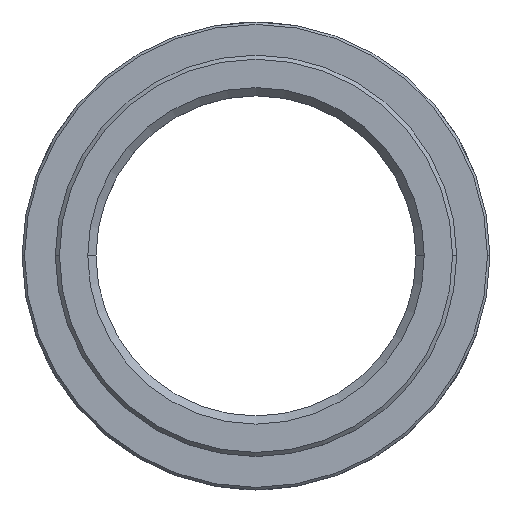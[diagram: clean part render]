
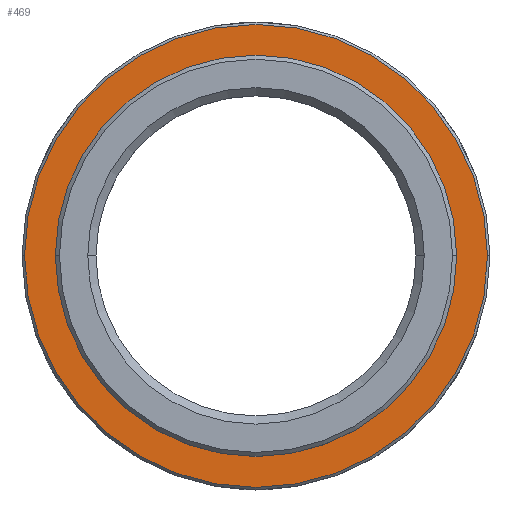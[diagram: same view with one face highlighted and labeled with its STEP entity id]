
A CAD part, top view. The second image highlights one B-rep face of the part: STEP entity #469.
In plain terms, the highlighted planar face has unit normal (0, 0, 1).
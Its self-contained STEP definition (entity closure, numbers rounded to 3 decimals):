
#123 = FACE_BOUND ( 'NONE', #924, .T. ) ;
#236 = DIRECTION ( 'NONE',  ( 0., 0., 1. ) ) ;
#262 = EDGE_CURVE ( 'NONE', #917, #1239, #571, .T. ) ;
#270 = CARTESIAN_POINT ( 'NONE',  ( 24.45, 0., -3.6 ) ) ;
#301 = CIRCLE ( 'NONE', #1146, 24.45 ) ;
#404 = VERTEX_POINT ( 'NONE', #1028 ) ;
#440 = CARTESIAN_POINT ( 'NONE',  ( 0., 0., -3.6 ) ) ;
#451 = EDGE_CURVE ( 'NONE', #666, #404, #777, .T. ) ;
#469 = ADVANCED_FACE ( 'NONE', ( #1149, #123 ), #694, .F. ) ;
#493 = CARTESIAN_POINT ( 'NONE',  ( 0., 24.45, -3.6 ) ) ;
#529 = AXIS2_PLACEMENT_3D ( 'NONE', #1093, #1109, #884 ) ;
#571 = CIRCLE ( 'NONE', #765, 28.2 ) ;
#666 = VERTEX_POINT ( 'NONE', #270 ) ;
#688 = CARTESIAN_POINT ( 'NONE',  ( 0., 0., -3.6 ) ) ;
#694 = PLANE ( 'NONE',  #1405 ) ;
#765 = AXIS2_PLACEMENT_3D ( 'NONE', #440, #1037, #1237 ) ;
#774 = DIRECTION ( 'NONE',  ( 1., 0., 0. ) ) ;
#777 = CIRCLE ( 'NONE', #827, 24.45 ) ;
#817 = ORIENTED_EDGE ( 'NONE', *, *, #262, .T. ) ;
#827 = AXIS2_PLACEMENT_3D ( 'NONE', #688, #236, #1285 ) ;
#836 = DIRECTION ( 'NONE',  ( 0., 0., -1. ) ) ;
#840 = CIRCLE ( 'NONE', #529, 28.2 ) ;
#884 = DIRECTION ( 'NONE',  ( -1., 0., 0. ) ) ;
#917 = VERTEX_POINT ( 'NONE', #1419 ) ;
#924 = EDGE_LOOP ( 'NONE', ( #1134, #1327 ) ) ;
#1018 = ORIENTED_EDGE ( 'NONE', *, *, #1310, .T. ) ;
#1028 = CARTESIAN_POINT ( 'NONE',  ( -24.45, 0., -3.6 ) ) ;
#1037 = DIRECTION ( 'NONE',  ( 0., 0., 1. ) ) ;
#1041 = DIRECTION ( 'NONE',  ( -1., 0., 0. ) ) ;
#1093 = CARTESIAN_POINT ( 'NONE',  ( 0., 0., -3.6 ) ) ;
#1109 = DIRECTION ( 'NONE',  ( 0., 0., 1. ) ) ;
#1134 = ORIENTED_EDGE ( 'NONE', *, *, #451, .F. ) ;
#1139 = EDGE_LOOP ( 'NONE', ( #1018, #817 ) ) ;
#1146 = AXIS2_PLACEMENT_3D ( 'NONE', #1353, #1264, #774 ) ;
#1149 = FACE_OUTER_BOUND ( 'NONE', #1139, .T. ) ;
#1155 = EDGE_CURVE ( 'NONE', #404, #666, #301, .T. ) ;
#1173 = CARTESIAN_POINT ( 'NONE',  ( -28.2, 0., -3.6 ) ) ;
#1237 = DIRECTION ( 'NONE',  ( -1., 0., 0. ) ) ;
#1239 = VERTEX_POINT ( 'NONE', #1173 ) ;
#1264 = DIRECTION ( 'NONE',  ( 0., 0., 1. ) ) ;
#1285 = DIRECTION ( 'NONE',  ( 1., 0., 0. ) ) ;
#1310 = EDGE_CURVE ( 'NONE', #1239, #917, #840, .T. ) ;
#1327 = ORIENTED_EDGE ( 'NONE', *, *, #1155, .F. ) ;
#1353 = CARTESIAN_POINT ( 'NONE',  ( 0., 0., -3.6 ) ) ;
#1405 = AXIS2_PLACEMENT_3D ( 'NONE', #493, #836, #1041 ) ;
#1419 = CARTESIAN_POINT ( 'NONE',  ( 28.2, 0., -3.6 ) ) ;
